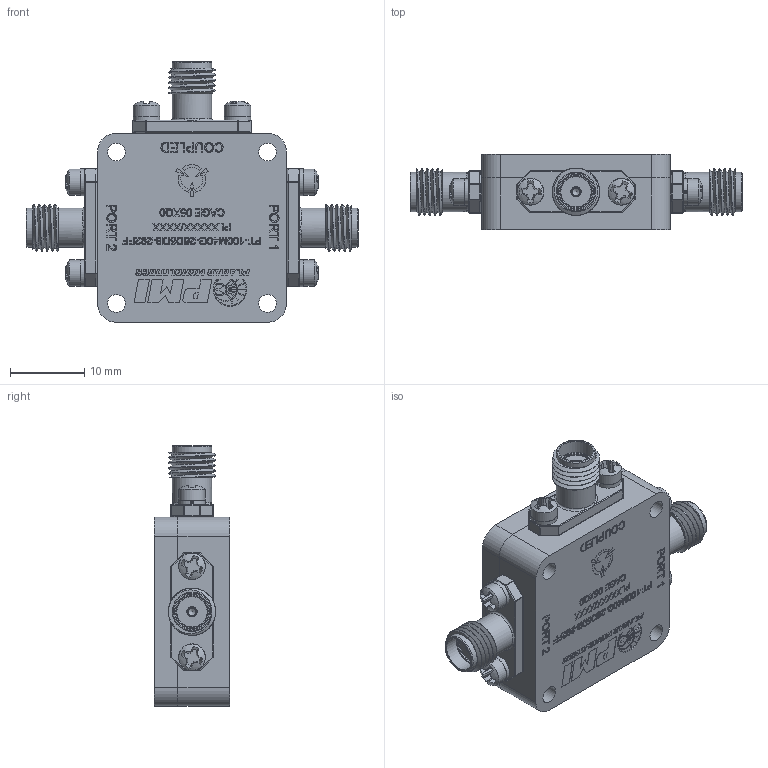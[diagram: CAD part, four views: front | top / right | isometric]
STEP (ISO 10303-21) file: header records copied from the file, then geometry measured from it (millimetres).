
FILE_DESCRIPTION (( 'STEP AP214' ), '1' );
FILE_NAME ('PT-100M40G-26D5DB-292FF.STEP', '2026-08-14T12:51:38', ( '' ), ( '' ), 'SwSTEP 2.0', 'SolidWorks 2025', '' );
FILE_SCHEMA (( 'AUTOMOTIVE_DESIGN' ));
Length unit declared in the file: millimetre
Products named in the file (1): PT-100M40G-26D5DB-292FF
Bounding box: 44.6 x 10.16 x 35 mm (x, y, z)
Volume: 7193.3 mm3; surface area: 6383.3 mm2
Topology: 27 solids, 27 shells, 1902 faces, 4787 edges, 3074 vertices
Faces by surface type: plane 1072, bspline 348, cylinder 303, torus 63, cone 62, sphere 54
Full cylindrical faces by diameter (mm): 0.381 x3, 0.889 x3, 1.016 x6, 1.27 x6, 1.295 x4, 1.524 x4, 1.702 x3, 1.854 x10, 2.057 x3, 2.184 x12, 2.381 x4, 2.565 x3, 2.591 x6, 2.635 x4, 3.302 x3, 3.556 x6, 4.191 x6, 4.597 x3, 5.283 x6
Entity records: 95261 total; most frequent: CARTESIAN_POINT 32000, ORIENTED_EDGE 9026, DIRECTION 7668, EDGE_CURVE 4513, VERTEX_POINT 3038, VECTOR 2834, LINE 2834, AXIS2_PLACEMENT_3D 2417
